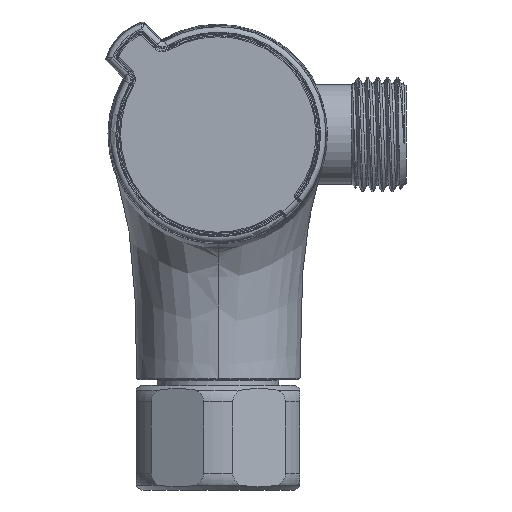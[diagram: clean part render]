
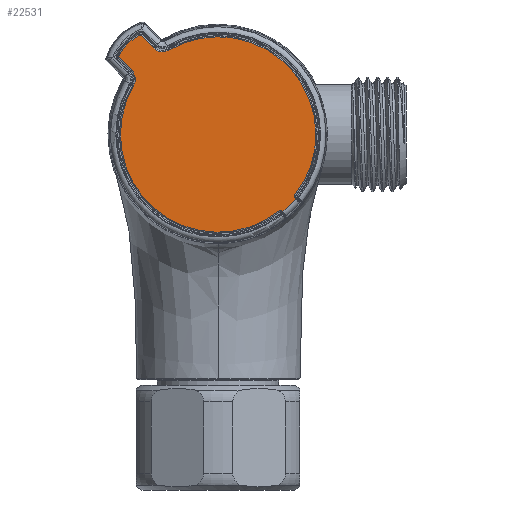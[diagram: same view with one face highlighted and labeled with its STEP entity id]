
A CAD part, left-side view. The second image highlights one B-rep face of the part: STEP entity #22531.
In plain terms, the highlighted planar face has unit normal (-1, 0, 0).
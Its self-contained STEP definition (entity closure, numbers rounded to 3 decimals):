
#22044=DIRECTION('',(0.,-0.707,-0.707));
#22045=VECTOR('',#22044,0.117);
#22046=CARTESIAN_POINT('',(-142.,-14.125,
-11.753));
#22047=LINE('',#22046,#22045);
#22048=CARTESIAN_POINT('',(-142.,0.,0.));
#22049=DIRECTION('',(-1.,0.,0.));
#22050=DIRECTION('',(0.,-0.64,-0.768));
#22051=AXIS2_PLACEMENT_3D('',#22048,#22049,#22050);
#22053=DIRECTION('',(0.,0.707,0.707));
#22054=VECTOR('',#22053,0.117);
#22055=CARTESIAN_POINT('',(-142.,-11.835,
-14.207));
#22056=LINE('',#22055,#22054);
#22057=CARTESIAN_POINT('',(-142.,-11.753,
-14.125));
#22058=CARTESIAN_POINT('',(-142.,-11.718,
-14.09));
#22059=CARTESIAN_POINT('',(-142.,-11.641,
-14.033));
#22060=CARTESIAN_POINT('',(-142.,-11.502,
-13.982));
#22061=CARTESIAN_POINT('',(-142.,-11.356,
-13.973));
#22062=CARTESIAN_POINT('',(-142.,-11.213,
-14.007));
#22063=CARTESIAN_POINT('',(-142.,-11.129,
-14.055));
#22064=CARTESIAN_POINT('',(-142.,-11.09,
-14.085));
#22066=CARTESIAN_POINT('',(-142.,0.,0.));
#22067=DIRECTION('',(1.,0.,0.));
#22068=DIRECTION('',(0.,-0.619,-0.786));
#22069=AXIS2_PLACEMENT_3D('',#22066,#22067,#22068);
#22071=CARTESIAN_POINT('',(-142.,15.52,
8.972));
#22072=CARTESIAN_POINT('',(-142.,15.483,
9.036));
#22073=CARTESIAN_POINT('',(-142.,15.408,
9.179));
#22074=CARTESIAN_POINT('',(-142.,15.302,
9.454));
#22075=CARTESIAN_POINT('',(-142.,15.224,
9.772));
#22076=CARTESIAN_POINT('',(-142.,15.19,
10.122));
#22077=CARTESIAN_POINT('',(-142.,15.209,
10.485));
#22078=CARTESIAN_POINT('',(-142.,15.284,
10.842));
#22079=CARTESIAN_POINT('',(-142.,15.407,
11.173));
#22080=CARTESIAN_POINT('',(-142.,15.565,
11.462));
#22081=CARTESIAN_POINT('',(-142.,15.74,
11.7));
#22082=CARTESIAN_POINT('',(-142.,15.849,
11.819));
#22083=CARTESIAN_POINT('',(-142.,15.901,
11.871));
#22085=DIRECTION('',(0.,0.707,0.707));
#22086=VECTOR('',#22085,3.153);
#22087=CARTESIAN_POINT('',(-142.,15.901,
11.871));
#22088=LINE('',#22087,#22086);
#22089=CARTESIAN_POINT('',(-142.,17.919,14.313));
#22090=DIRECTION('',(1.,0.,0.));
#22091=DIRECTION('',(0.,0.707,-0.707));
#22092=AXIS2_PLACEMENT_3D('',#22089,#22090,#22091);
#22094=CARTESIAN_POINT('',(-142.,10.904,10.904));
#22095=DIRECTION('',(1.,0.,0.));
#22096=DIRECTION('',(0.,0.899,0.437));
#22097=AXIS2_PLACEMENT_3D('',#22094,#22095,#22096);
#22099=CARTESIAN_POINT('',(-142.,14.313,17.919));
#22100=DIRECTION('',(1.,0.,0.));
#22101=DIRECTION('',(0.,0.437,0.899));
#22102=AXIS2_PLACEMENT_3D('',#22099,#22100,#22101);
#22104=DIRECTION('',(0.,-0.707,-0.707));
#22105=VECTOR('',#22104,3.153);
#22106=CARTESIAN_POINT('',(-142.,14.101,18.131));
#22107=LINE('',#22106,#22105);
#22108=CARTESIAN_POINT('',(-142.,11.871,
15.901));
#22109=CARTESIAN_POINT('',(-142.,11.818,
15.849));
#22110=CARTESIAN_POINT('',(-142.,11.699,
15.739));
#22111=CARTESIAN_POINT('',(-142.,11.459,
15.563));
#22112=CARTESIAN_POINT('',(-142.,11.169,
15.405));
#22113=CARTESIAN_POINT('',(-142.,10.837,
15.282));
#22114=CARTESIAN_POINT('',(-142.,10.479,
15.208));
#22115=CARTESIAN_POINT('',(-142.,10.116,
15.19));
#22116=CARTESIAN_POINT('',(-142.,9.766,
15.225));
#22117=CARTESIAN_POINT('',(-142.,9.449,
15.303));
#22118=CARTESIAN_POINT('',(-142.,9.177,
15.41));
#22119=CARTESIAN_POINT('',(-142.,9.035,
15.484));
#22120=CARTESIAN_POINT('',(-142.,8.972,
15.52));
#22122=CARTESIAN_POINT('',(-142.,0.,0.));
#22123=DIRECTION('',(1.,0.,0.));
#22124=DIRECTION('',(0.,0.5,0.866));
#22125=AXIS2_PLACEMENT_3D('',#22122,#22123,#22124);
#22127=CARTESIAN_POINT('',(-142.,-14.085,
-11.09));
#22128=CARTESIAN_POINT('',(-142.,-14.055,
-11.129));
#22129=CARTESIAN_POINT('',(-142.,-14.007,
-11.212));
#22130=CARTESIAN_POINT('',(-142.,-13.973,
-11.356));
#22131=CARTESIAN_POINT('',(-142.,-13.982,
-11.502));
#22132=CARTESIAN_POINT('',(-142.,-14.032,
-11.64));
#22133=CARTESIAN_POINT('',(-142.,-14.089,
-11.717));
#22134=CARTESIAN_POINT('',(-142.,-14.125,
-11.753));
#22182=CARTESIAN_POINT('',(-142.,-14.207,
-11.835));
#22448=VERTEX_POINT('',#22182);
#22450=CARTESIAN_POINT('',(-142.,-14.125,
-11.753));
#22451=VERTEX_POINT('',#22450);
#22454=VERTEX_POINT('',#22127);
#22457=CARTESIAN_POINT('',(-142.,8.972,15.52));
#22458=VERTEX_POINT('',#22457);
#22460=VERTEX_POINT('',#22108);
#22463=CARTESIAN_POINT('',(-142.,14.101,18.131));
#22464=VERTEX_POINT('',#22463);
#22467=CARTESIAN_POINT('',(-142.,14.444,18.189));
#22468=VERTEX_POINT('',#22467);
#22471=CARTESIAN_POINT('',(-142.,18.189,14.444));
#22472=VERTEX_POINT('',#22471);
#22475=CARTESIAN_POINT('',(-142.,18.131,14.101));
#22476=VERTEX_POINT('',#22475);
#22479=CARTESIAN_POINT('',(-142.,15.901,
11.871));
#22480=VERTEX_POINT('',#22479);
#22482=VERTEX_POINT('',#22071);
#22485=CARTESIAN_POINT('',(-142.,-11.09,-14.085));
#22486=VERTEX_POINT('',#22485);
#22488=VERTEX_POINT('',#22057);
#22489=CARTESIAN_POINT('',(-142.,-11.835,
-14.207));
#22490=VERTEX_POINT('',#22489);
#22496=CARTESIAN_POINT('',(-142.,0.,0.));
#22497=DIRECTION('',(-1.,0.,0.));
#22498=DIRECTION('',(0.,-0.707,-0.707));
#22499=AXIS2_PLACEMENT_3D('',#22496,#22497,#22498);
#22500=PLANE('',#22499);
#22502=ORIENTED_EDGE('',*,*,#22501,.T.);
#22504=ORIENTED_EDGE('',*,*,#22503,.F.);
#22506=ORIENTED_EDGE('',*,*,#22505,.T.);
#22508=ORIENTED_EDGE('',*,*,#22507,.T.);
#22510=ORIENTED_EDGE('',*,*,#22509,.T.);
#22512=ORIENTED_EDGE('',*,*,#22511,.T.);
#22514=ORIENTED_EDGE('',*,*,#22513,.T.);
#22516=ORIENTED_EDGE('',*,*,#22515,.T.);
#22518=ORIENTED_EDGE('',*,*,#22517,.T.);
#22520=ORIENTED_EDGE('',*,*,#22519,.T.);
#22522=ORIENTED_EDGE('',*,*,#22521,.T.);
#22524=ORIENTED_EDGE('',*,*,#22523,.T.);
#22526=ORIENTED_EDGE('',*,*,#22525,.T.);
#22528=ORIENTED_EDGE('',*,*,#22527,.T.);
#22529=EDGE_LOOP('',(#22502,#22504,#22506,#22508,#22510,#22512,#22514,#22516,
#22518,#22520,#22522,#22524,#22526,#22528));
#22530=FACE_OUTER_BOUND('',#22529,.F.);
#22531=ADVANCED_FACE('',(#22530),#22500,.T.);
#22052=CIRCLE('',#22051,18.491);
#22065=B_SPLINE_CURVE_WITH_KNOTS('',3,(#22057,#22058,#22059,#22060,#22061,
#22062,#22063,#22064),.UNSPECIFIED.,.F.,.F.,(4,1,1,1,1,4),(0.,0.2,0.4,
0.6,0.8,1.),.UNSPECIFIED.);
#22070=CIRCLE('',#22069,17.927);
#22084=B_SPLINE_CURVE_WITH_KNOTS('',3,(#22071,#22072,#22073,#22074,#22075,
#22076,#22077,#22078,#22079,#22080,#22081,#22082,#22083),.UNSPECIFIED.,.F.,.F.,(
4,1,1,1,1,1,1,1,1,1,4),(0.,0.1,0.2,0.3,0.4,0.5,0.6,0.7,0.8,
0.9,1.),.UNSPECIFIED.);
#22093=CIRCLE('',#22092,0.3);
#22098=CIRCLE('',#22097,8.1);
#22103=CIRCLE('',#22102,0.3);
#22121=B_SPLINE_CURVE_WITH_KNOTS('',3,(#22108,#22109,#22110,#22111,#22112,
#22113,#22114,#22115,#22116,#22117,#22118,#22119,#22120),.UNSPECIFIED.,.F.,.F.,(
4,1,1,1,1,1,1,1,1,1,4),(0.,0.1,0.2,0.3,0.4,0.5,0.6,0.7,0.8,
0.9,1.),.UNSPECIFIED.);
#22126=CIRCLE('',#22125,17.927);
#22135=B_SPLINE_CURVE_WITH_KNOTS('',3,(#22127,#22128,#22129,#22130,#22131,
#22132,#22133,#22134),.UNSPECIFIED.,.F.,.F.,(4,1,1,1,1,4),(0.,0.2,0.4,
0.6,0.8,1.),.UNSPECIFIED.);
#22501=EDGE_CURVE('',#22451,#22448,#22047,.T.);
#22503=EDGE_CURVE('',#22490,#22448,#22052,.T.);
#22505=EDGE_CURVE('',#22490,#22488,#22056,.T.);
#22507=EDGE_CURVE('',#22488,#22486,#22065,.T.);
#22509=EDGE_CURVE('',#22486,#22482,#22070,.T.);
#22511=EDGE_CURVE('',#22482,#22480,#22084,.T.);
#22513=EDGE_CURVE('',#22480,#22476,#22088,.T.);
#22515=EDGE_CURVE('',#22476,#22472,#22093,.T.);
#22517=EDGE_CURVE('',#22472,#22468,#22098,.T.);
#22519=EDGE_CURVE('',#22468,#22464,#22103,.T.);
#22521=EDGE_CURVE('',#22464,#22460,#22107,.T.);
#22523=EDGE_CURVE('',#22460,#22458,#22121,.T.);
#22525=EDGE_CURVE('',#22458,#22454,#22126,.T.);
#22527=EDGE_CURVE('',#22454,#22451,#22135,.T.);
